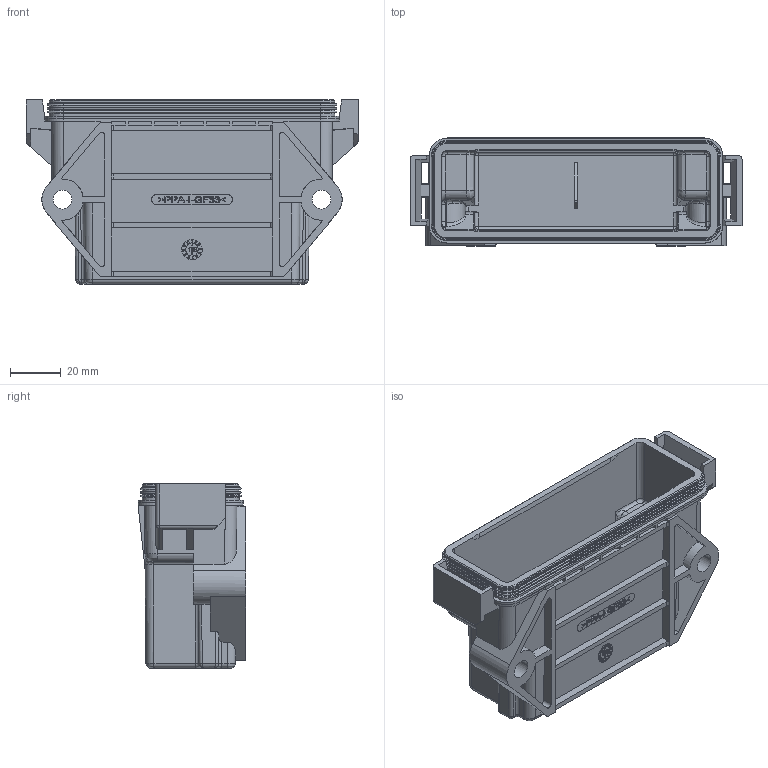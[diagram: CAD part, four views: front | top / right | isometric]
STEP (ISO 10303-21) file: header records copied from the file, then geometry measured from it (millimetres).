
FILE_DESCRIPTION((''),'2;1');
FILE_NAME('5810130090_ASM','2017-08-14T',('Jose.Ponce'),(''),'PRO/ENGINEER BY PARAMETRIC TECHNOLOGY CORPORATION, 2014200','PRO/ENGINEER BY PARAMETRIC TECHNOLOGY CORPORATION, 2014200','');
FILE_SCHEMA(('CONFIG_CONTROL_DESIGN'));
Products named in the file (3): 4828770276; 4630899186_STRETCHED; 5810130090_ASM
Assembly tree (2 placements, depth 2):
  5810130090_ASM
    4828770276
    4630899186_STRETCHED
Bounding box: 130.25 x 42.29 x 72.26 mm (x, y, z)
Volume: 69709.7 mm3; surface area: 61739.5 mm2
Topology: 2 solids, 2 shells, 1450 faces, 3924 edges, 2526 vertices
Faces by surface type: plane 997, cylinder 222, extrusion 91, bspline 78, torus 44, cone 12, sphere 6
Entity records: 56151 total; most frequent: CARTESIAN_POINT 20402, ORIENTED_EDGE 7848, DIRECTION 6599, EDGE_CURVE 3924, VECTOR 3147, LINE 3056, VERTEX_POINT 2526, AXIS2_PLACEMENT_3D 1726
